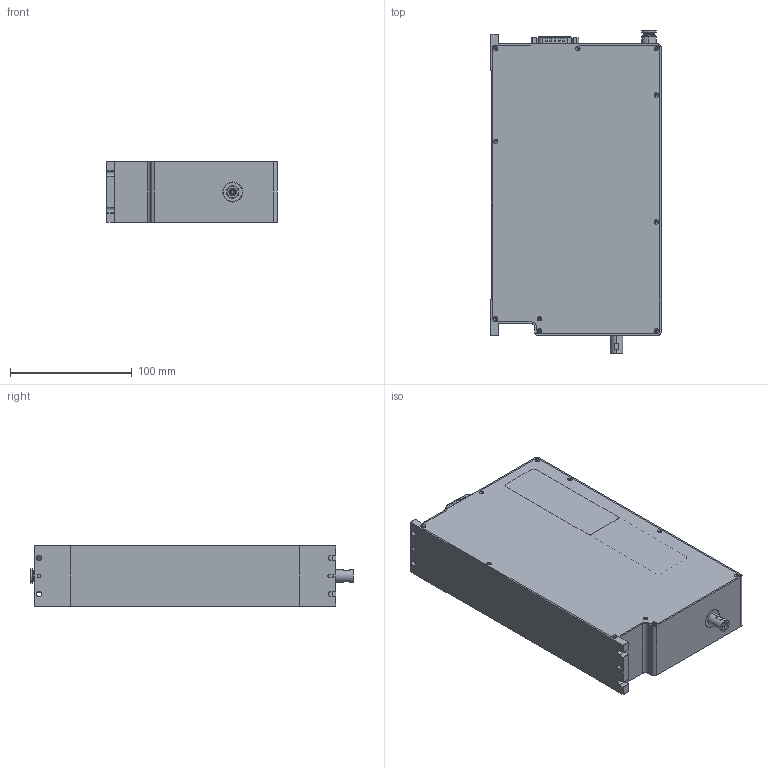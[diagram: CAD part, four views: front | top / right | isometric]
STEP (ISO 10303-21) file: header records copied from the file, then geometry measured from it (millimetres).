
FILE_DESCRIPTION (( 'STEP AP214' ), '1' );
FILE_NAME ('ZRADS-10-50-S40-EC.STEP', '2023-11-22T07:12:45', ( 'XZOS' ), ( 'MS' ), 'SwSTEP 2.0', 'SolidWorks 2019', '' );
FILE_SCHEMA (( 'AUTOMOTIVE_DESIGN' ));
Length unit declared in the file: millimetre
Products named in the file (9): ZRADS8-25-S30-HL40-001_1; PRODUCT_42283; ZRADS8-25-S30-HL40-003_1; ZRADS-10-50-S40-EC; ASM0001_ASM; UDB26-PCB_1; ZRADS8-25-S30-HL40-011_1; POC6M5-S; ZRADS8-25-S30-HL40-004_1
Assembly tree (12 placements, depth 3):
  ZRADS-10-50-S40-EC
    ASM0001_ASM
      ZRADS8-25-S30-HL40-003_1
      ZRADS8-25-S30-HL40-001_1
      UDB26-PCB_1  x2
      ZRADS8-25-S30-HL40-011_1
      ZRADS8-25-S30-HL40-004_1
      PRODUCT_42283  x4
      POC6M5-S
Bounding box: 140 x 266.5 x 50 mm (x, y, z)
Volume: 1680549.8 mm3; surface area: 193914.1 mm2
Topology: 11 solids, 11 shells, 2106 faces, 4990 edges, 2927 vertices
Faces by surface type: cylinder 1011, bspline 540, plane 429, cone 112, torus 14
Entity records: 42663 total; most frequent: CARTESIAN_POINT 15491, ORIENTED_EDGE 5686, DIRECTION 5461, EDGE_CURVE 2843, AXIS2_PLACEMENT_3D 2149, VERTEX_POINT 1744, EDGE_LOOP 1405, FACE_OUTER_BOUND 1241
